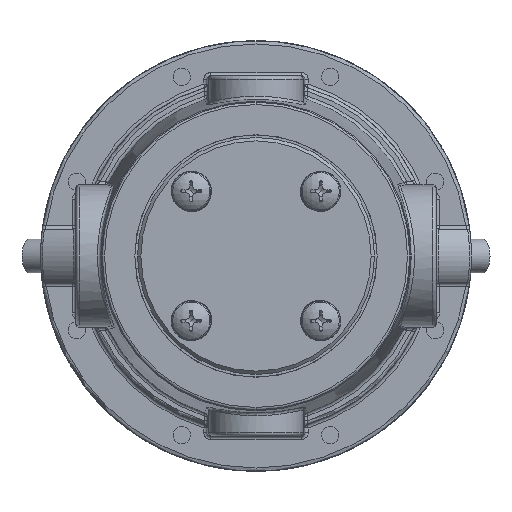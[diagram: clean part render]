
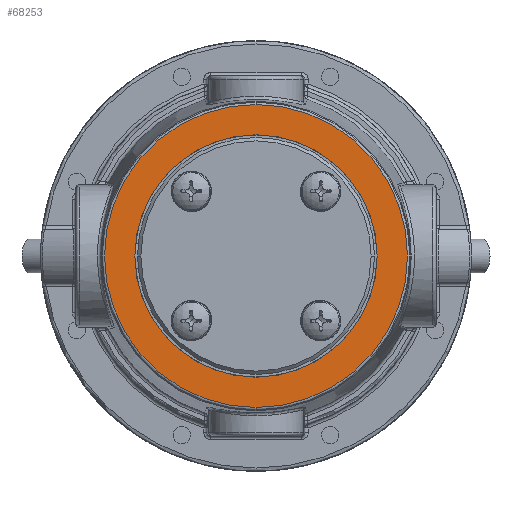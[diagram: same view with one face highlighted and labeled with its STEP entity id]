
A CAD part, front view. The second image highlights one B-rep face of the part: STEP entity #68253.
In plain terms, the highlighted planar face has unit normal (0, -1, 0).
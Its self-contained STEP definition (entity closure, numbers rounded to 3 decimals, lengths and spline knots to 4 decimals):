
#40199=CARTESIAN_POINT('',(0.,-1.0098,0.));
#40200=DIRECTION('',(0.,-1.,0.));
#40201=DIRECTION('',(0.,0.,-1.));
#40202=AXIS2_PLACEMENT_3D('',#40199,#40200,#40201);
#40207=CARTESIAN_POINT('',(0.,-1.0098,0.));
#40208=DIRECTION('',(0.,-1.,0.));
#40209=DIRECTION('',(-1.,0.,0.));
#40210=AXIS2_PLACEMENT_3D('',#40207,#40208,#40209);
#40215=CARTESIAN_POINT('',(0.,-1.0098,0.));
#40216=DIRECTION('',(0.,-1.,0.));
#40217=DIRECTION('',(0.,0.,1.));
#40218=AXIS2_PLACEMENT_3D('',#40215,#40216,#40217);
#40223=CARTESIAN_POINT('',(0.,-1.0098,0.));
#40224=DIRECTION('',(0.,1.,0.));
#40225=DIRECTION('',(1.,0.,0.));
#40226=AXIS2_PLACEMENT_3D('',#40223,#40224,#40225);
#40231=CARTESIAN_POINT('',(0.,-1.0098,0.));
#40232=DIRECTION('',(0.,1.,0.));
#40233=DIRECTION('',(-1.,0.,0.));
#40234=AXIS2_PLACEMENT_3D('',#40231,#40232,#40233);
#48455=CARTESIAN_POINT('',(0.,-1.0098,1.407));
#48456=VERTEX_POINT('',#48455);
#48479=CARTESIAN_POINT('',(0.,-1.0098,-1.407));
#48480=VERTEX_POINT('',#48479);
#48557=CARTESIAN_POINT('',(-1.407,-1.0098,0.));
#48558=VERTEX_POINT('',#48557);
#48649=CARTESIAN_POINT('',(1.1245,-1.0098,0.));
#48650=CARTESIAN_POINT('',(-1.1245,-1.0098,0.));
#48651=VERTEX_POINT('',#48649);
#48652=VERTEX_POINT('',#48650);
#68237=CARTESIAN_POINT('',(-1.4365,-1.0098,0.));
#68238=DIRECTION('',(0.,-1.,0.));
#68239=DIRECTION('',(0.,0.,-1.));
#68240=AXIS2_PLACEMENT_3D('',#68237,#68238,#68239);
#68241=PLANE('',#68240);
#68242=ORIENTED_EDGE('',*,*,#68214,.F.);
#68243=ORIENTED_EDGE('',*,*,#68230,.F.);
#68244=ORIENTED_EDGE('',*,*,#68228,.F.);
#68245=EDGE_LOOP('',(#68242,#68243,#68244));
#68246=FACE_OUTER_BOUND('',#68245,.F.);
#68248=ORIENTED_EDGE('',*,*,#68247,.F.);
#68250=ORIENTED_EDGE('',*,*,#68249,.F.);
#68251=EDGE_LOOP('',(#68248,#68250));
#68252=FACE_BOUND('',#68251,.F.);
#40203=CIRCLE('',#40202,1.407);
#40211=CIRCLE('',#40210,1.407);
#40219=CIRCLE('',#40218,1.407);
#40227=CIRCLE('',#40226,1.1245);
#40235=CIRCLE('',#40234,1.1245);
#68214=EDGE_CURVE('',#48480,#48456,#40203,.T.);
#68228=EDGE_CURVE('',#48456,#48558,#40219,.T.);
#68230=EDGE_CURVE('',#48558,#48480,#40211,.T.);
#68247=EDGE_CURVE('',#48651,#48652,#40227,.T.);
#68249=EDGE_CURVE('',#48652,#48651,#40235,.T.);
#68253=ADVANCED_FACE('',(#68246,#68252),#68241,.T.);
